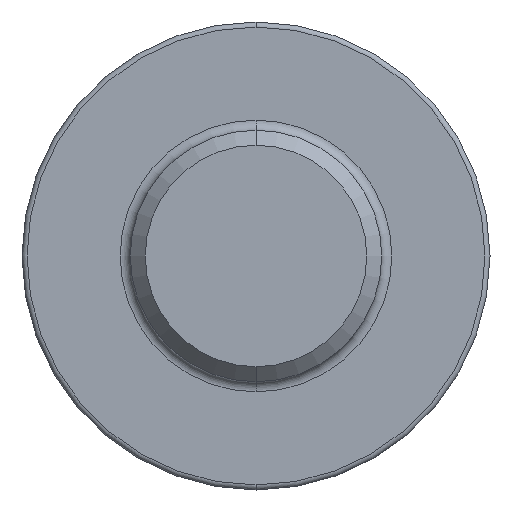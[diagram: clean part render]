
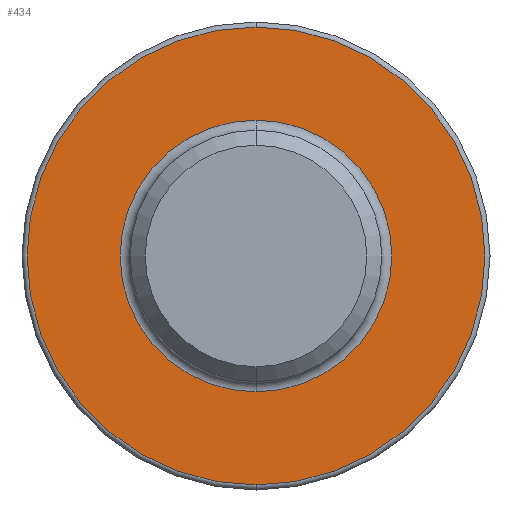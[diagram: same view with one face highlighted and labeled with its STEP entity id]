
A CAD part, front view. The second image highlights one B-rep face of the part: STEP entity #434.
In plain terms, the highlighted planar face has unit normal (0, -1, 0).
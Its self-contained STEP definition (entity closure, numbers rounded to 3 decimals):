
#3 = VERTEX_POINT ( 'NONE', #42 ) ;
#7 = CARTESIAN_POINT ( 'NONE',  ( 0., -2.7, 0. ) ) ;
#13 = ORIENTED_EDGE ( 'NONE', *, *, #319, .T. ) ;
#42 = CARTESIAN_POINT ( 'NONE',  ( 0., -2.7, 4.55 ) ) ;
#53 = AXIS2_PLACEMENT_3D ( 'NONE', #401, #323, #71 ) ;
#58 = DIRECTION ( 'NONE',  ( 0., 1., 0. ) ) ;
#71 = DIRECTION ( 'NONE',  ( 0., 0., 1. ) ) ;
#92 = EDGE_LOOP ( 'NONE', ( #534, #13 ) ) ;
#95 = FACE_BOUND ( 'NONE', #92, .T. ) ;
#118 = CARTESIAN_POINT ( 'NONE',  ( 0., -2.7, 2.7 ) ) ;
#144 = DIRECTION ( 'NONE',  ( 0., 1., 0. ) ) ;
#153 = VERTEX_POINT ( 'NONE', #533 ) ;
#217 = EDGE_CURVE ( 'NONE', #617, #153, #641, .T. ) ;
#227 = PLANE ( 'NONE',  #597 ) ;
#238 = AXIS2_PLACEMENT_3D ( 'NONE', #7, #58, #274 ) ;
#274 = DIRECTION ( 'NONE',  ( 0., 0., 1. ) ) ;
#285 = AXIS2_PLACEMENT_3D ( 'NONE', #742, #586, #522 ) ;
#292 = FACE_OUTER_BOUND ( 'NONE', #572, .T. ) ;
#319 = EDGE_CURVE ( 'NONE', #153, #617, #429, .T. ) ;
#323 = DIRECTION ( 'NONE',  ( 0., 1., 0. ) ) ;
#336 = CARTESIAN_POINT ( 'NONE',  ( 0., -2.7, -4.55 ) ) ;
#353 = DIRECTION ( 'NONE',  ( 0., 0., 1. ) ) ;
#396 = EDGE_CURVE ( 'NONE', #3, #628, #670, .T. ) ;
#401 = CARTESIAN_POINT ( 'NONE',  ( 0., -2.7, 0. ) ) ;
#413 = AXIS2_PLACEMENT_3D ( 'NONE', #816, #751, #353 ) ;
#429 = CIRCLE ( 'NONE', #53, 2.7 ) ;
#434 = ADVANCED_FACE ( 'NONE', ( #95, #292 ), #227, .F. ) ;
#443 = ORIENTED_EDGE ( 'NONE', *, *, #396, .T. ) ;
#522 = DIRECTION ( 'NONE',  ( 0., 0., 1. ) ) ;
#533 = CARTESIAN_POINT ( 'NONE',  ( 0., -2.7, -2.7 ) ) ;
#534 = ORIENTED_EDGE ( 'NONE', *, *, #217, .T. ) ;
#546 = CARTESIAN_POINT ( 'NONE',  ( 2.5, -2.7, 0. ) ) ;
#572 = EDGE_LOOP ( 'NONE', ( #443, #821 ) ) ;
#586 = DIRECTION ( 'NONE',  ( 0., -1., 0. ) ) ;
#595 = CIRCLE ( 'NONE', #285, 4.55 ) ;
#597 = AXIS2_PLACEMENT_3D ( 'NONE', #546, #144, #820 ) ;
#617 = VERTEX_POINT ( 'NONE', #118 ) ;
#628 = VERTEX_POINT ( 'NONE', #336 ) ;
#641 = CIRCLE ( 'NONE', #238, 2.7 ) ;
#670 = CIRCLE ( 'NONE', #413, 4.55 ) ;
#676 = EDGE_CURVE ( 'NONE', #628, #3, #595, .T. ) ;
#742 = CARTESIAN_POINT ( 'NONE',  ( 0., -2.7, 0. ) ) ;
#751 = DIRECTION ( 'NONE',  ( 0., -1., 0. ) ) ;
#816 = CARTESIAN_POINT ( 'NONE',  ( 0., -2.7, 0. ) ) ;
#820 = DIRECTION ( 'NONE',  ( 0., 0., 1. ) ) ;
#821 = ORIENTED_EDGE ( 'NONE', *, *, #676, .T. ) ;
